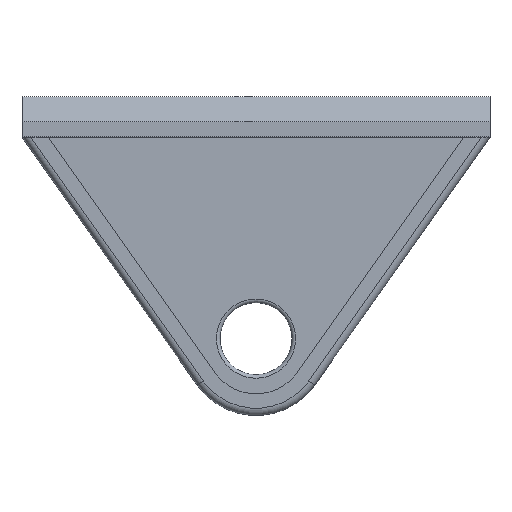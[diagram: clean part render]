
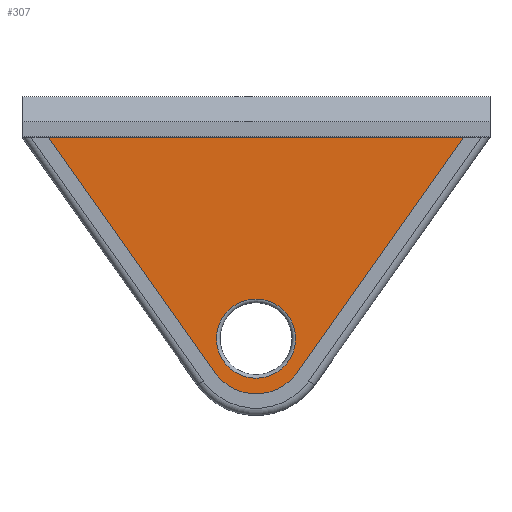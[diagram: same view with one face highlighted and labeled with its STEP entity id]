
A CAD part, top view. The second image highlights one B-rep face of the part: STEP entity #307.
In plain terms, the highlighted planar face has unit normal (0, 0, 1).
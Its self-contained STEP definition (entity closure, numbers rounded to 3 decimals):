
#200=CARTESIAN_POINT('',(7.407,-12.335,5.4));
#201=VERTEX_POINT('',#200);
#202=CARTESIAN_POINT('',(1.907,-12.335,5.4));
#203=DIRECTION('',(0.0,0.0,1.0));
#204=DIRECTION('',(-1.0,0.0,0.0));
#205=AXIS2_PLACEMENT_3D('',#202,#203,#204);
#206=CIRCLE('',#205,5.5);
#207=EDGE_CURVE('',#201,#201,#206,.T.);
#264=CARTESIAN_POINT('',(1.907,3.946,5.4));
#265=DIRECTION('',(0.0,0.0,1.0));
#266=DIRECTION('',(1.0,0.0,0.0));
#267=AXIS2_PLACEMENT_3D('',#264,#265,#266);
#268=PLANE('',#267);
#269=CARTESIAN_POINT('',(-3.81,-17.045,5.4));
#270=VERTEX_POINT('',#269);
#271=CARTESIAN_POINT('',(7.624,-17.045,5.4));
#272=VERTEX_POINT('',#271);
#273=CARTESIAN_POINT('',(1.907,-13.005,5.4));
#274=DIRECTION('',(0.0,0.0,1.0));
#275=DIRECTION('',(-0.817,-0.577,0.0));
#276=AXIS2_PLACEMENT_3D('',#273,#274,#275);
#277=CIRCLE('',#276,7.);
#278=EDGE_CURVE('',#270,#272,#277,.T.);
#279=ORIENTED_EDGE('',*,*,#278,.T.);
#280=CARTESIAN_POINT('',(30.734,15.665,5.4));
#281=VERTEX_POINT('',#280);
#282=CARTESIAN_POINT('',(7.624,-17.045,5.4));
#283=DIRECTION('',(0.577,0.817,0.0));
#284=VECTOR('',#283,40.049);
#285=LINE('',#282,#284);
#286=EDGE_CURVE('',#272,#281,#285,.T.);
#287=ORIENTED_EDGE('',*,*,#286,.T.);
#288=CARTESIAN_POINT('',(-26.92,15.665,5.4));
#289=VERTEX_POINT('',#288);
#290=CARTESIAN_POINT('',(-26.92,15.665,5.4));
#291=DIRECTION('',(1.0,0.0,0.0));
#292=VECTOR('',#291,57.654);
#293=LINE('',#290,#292);
#294=EDGE_CURVE('',#289,#281,#293,.T.);
#295=ORIENTED_EDGE('',*,*,#294,.F.);
#296=CARTESIAN_POINT('',(-26.92,15.665,5.4));
#297=DIRECTION('',(0.577,-0.817,0.0));
#298=VECTOR('',#297,40.049);
#299=LINE('',#296,#298);
#300=EDGE_CURVE('',#289,#270,#299,.T.);
#301=ORIENTED_EDGE('',*,*,#300,.T.);
#302=EDGE_LOOP('',(#279,#287,#295,#301));
#303=FACE_OUTER_BOUND('',#302,.T.);
#304=ORIENTED_EDGE('',*,*,#207,.F.);
#305=EDGE_LOOP('',(#304));
#306=FACE_BOUND('',#305,.T.);
#307=ADVANCED_FACE('',(#303,#306),#268,.T.);
